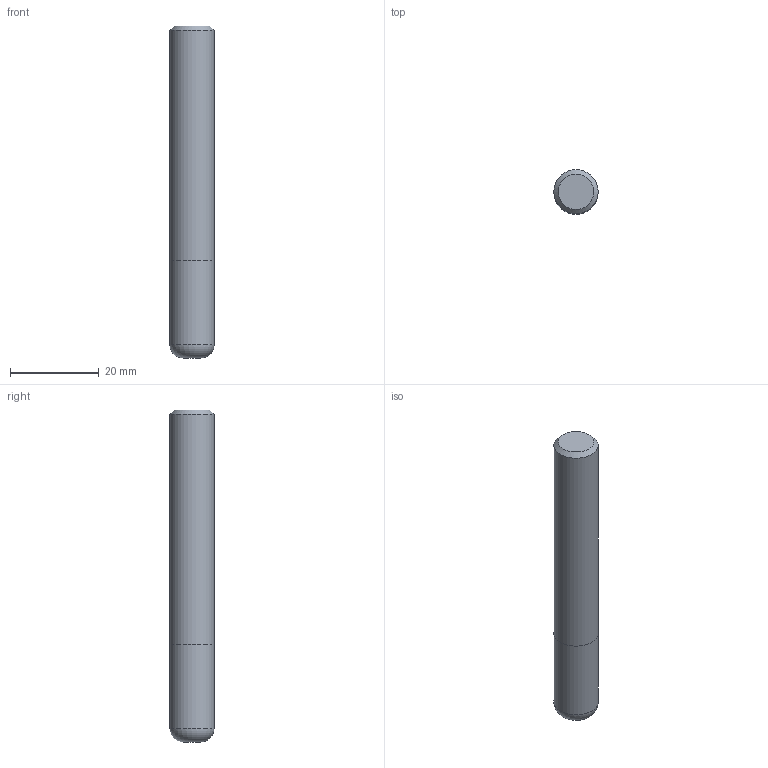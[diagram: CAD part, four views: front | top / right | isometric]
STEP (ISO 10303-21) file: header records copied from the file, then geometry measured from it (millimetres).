
FILE_DESCRIPTION((''),'2;1');
FILE_NAME('C:\Users\nsx150\AppData\Local\Temp\Mastercam 2021\0KY4AY0TVG\TEMP.step','2021-10-21T14:42:05',(''),(''),'STEP Write','Mastercam 2021 ... CNC Software, Inc.','');
FILE_SCHEMA(('AUTOMOTIVE_DESIGN'));
Length unit declared in the file: millimetre
Products named in the file (1): None
Bounding box: 10 x 10 x 75 mm (x, y, z)
Volume: 5823.3 mm3; surface area: 2606.2 mm2
Topology: 2 solids, 2 shells, 8 faces, 10 edges, 6 vertices
Faces by surface type: plane 4, cylinder 2, torus 1, cone 1
Full cylindrical faces by diameter (mm): 10 x2
Entity records: 190 total; most frequent: DIRECTION 32, CARTESIAN_POINT 22, AXIS2_PLACEMENT_3D 16, ORIENTED_EDGE 12, EDGE_LOOP 12, STYLED_ITEM 11, ADVANCED_FACE 8, FACE_BOUND 7
